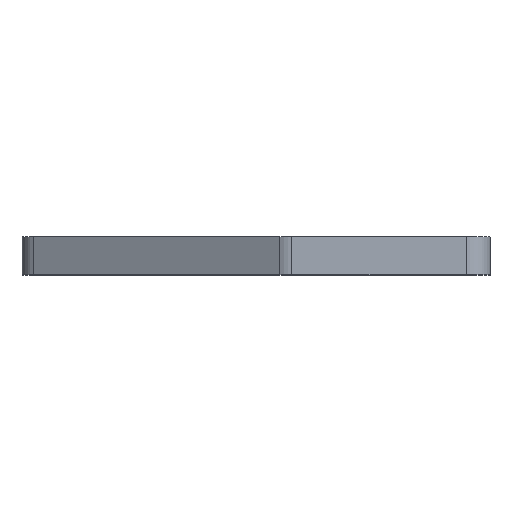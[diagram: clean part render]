
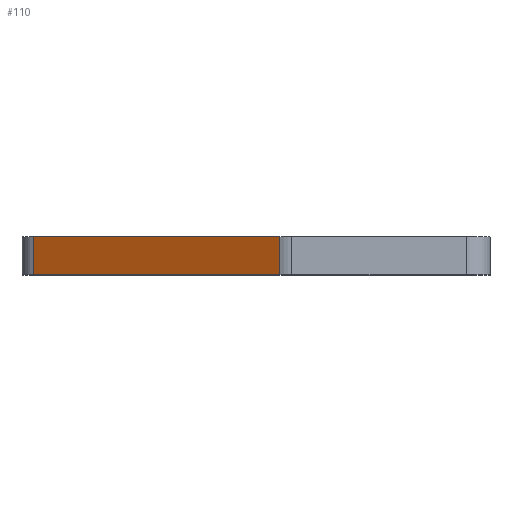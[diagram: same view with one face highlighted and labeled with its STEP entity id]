
A CAD part, top view. The second image highlights one B-rep face of the part: STEP entity #110.
In plain terms, the highlighted planar face has unit normal (-0.5, 0, 0.866).
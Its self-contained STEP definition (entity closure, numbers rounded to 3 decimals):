
#110=ADVANCED_FACE('',(#217),#1056,.T.);
#217=FACE_OUTER_BOUND('',#387,.F.);
#387=EDGE_LOOP('',(#624,#625,#626,#627));
#624=ORIENTED_EDGE('',*,*,#1432,.F.);
#625=ORIENTED_EDGE('',*,*,#1456,.F.);
#626=ORIENTED_EDGE('',*,*,#1444,.T.);
#627=ORIENTED_EDGE('',*,*,#1455,.T.);
#1056=PLANE('',#2096);
#1109=LINE('',#3093,#1235);
#1115=LINE('',#3105,#1241);
#1125=LINE('',#3116,#1251);
#1126=LINE('',#3117,#1252);
#1235=VECTOR('',#2353,59.774);
#1241=VECTOR('',#2371,59.774);
#1251=VECTOR('',#2383,8.);
#1252=VECTOR('',#2384,8.);
#1432=EDGE_CURVE('',#1850,#1851,#1109,.T.);
#1444=EDGE_CURVE('',#1838,#1839,#1115,.T.);
#1455=EDGE_CURVE('',#1839,#1851,#1125,.T.);
#1456=EDGE_CURVE('',#1838,#1850,#1126,.T.);
#1838=VERTEX_POINT('',#2905);
#1839=VERTEX_POINT('',#2906);
#1850=VERTEX_POINT('',#2917);
#1851=VERTEX_POINT('',#2918);
#2096=AXIS2_PLACEMENT_3D('',#3287,#2631,#2632);
#2353=DIRECTION('',(0.866,0.,0.5));
#2371=DIRECTION('',(0.866,0.,0.5));
#2383=DIRECTION('',(0.,-1.,0.));
#2384=DIRECTION('',(0.,-1.,0.));
#2631=DIRECTION('',(-0.5,0.,0.866));
#2632=DIRECTION('',(0.866,0.,0.5));
#2905=CARTESIAN_POINT('',(127.288,76.725,504.468));
#2906=CARTESIAN_POINT('',(179.054,76.725,534.355));
#2917=CARTESIAN_POINT('',(127.288,68.725,504.468));
#2918=CARTESIAN_POINT('',(179.054,68.725,534.355));
#3093=CARTESIAN_POINT('',(127.288,68.725,504.468));
#3105=CARTESIAN_POINT('',(127.288,76.725,504.468));
#3116=CARTESIAN_POINT('',(179.054,76.725,534.355));
#3117=CARTESIAN_POINT('',(127.288,76.725,504.468));
#3287=CARTESIAN_POINT('',(126.771,68.127,504.169));
